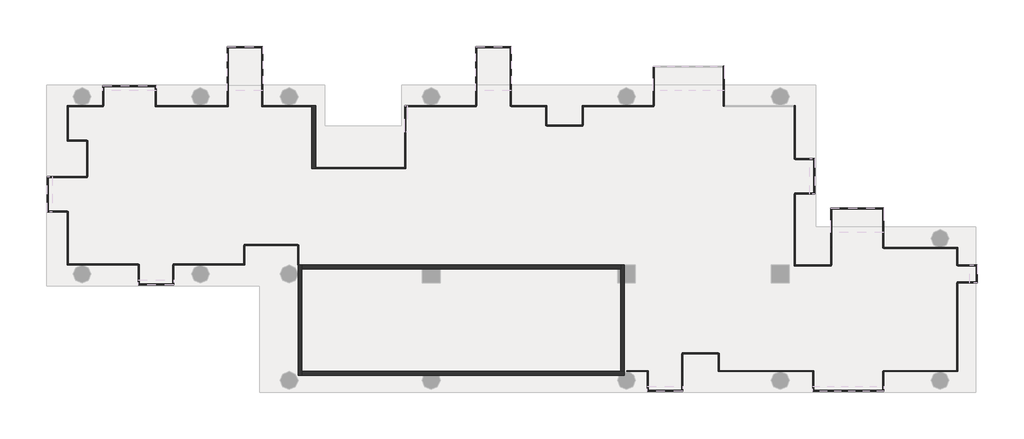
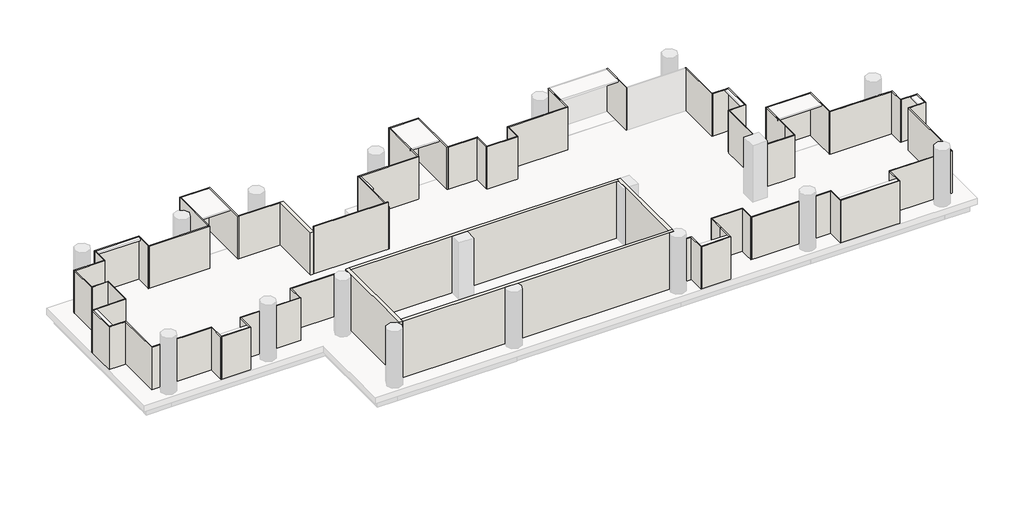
# One storey, part 1 of 2: 70 walls.
"""IFC4 building model written with IfcOpenShell, lengths in millimetres."""

from ifc_helpers import new_model, si_unit, frame, origin, place, context, project, spatial, polyline, outline, extrude, faceted_brep, element, save

model = new_model("IFC4")

# Units and contexts
model_context = context("Model", 3, world=origin())
ifc_project = project(units=[si_unit("LENGTHUNIT", "METRE", prefix="MILLI")], contexts=[model_context])

# Site, building, storey
site = spatial("IfcSite", under=ifc_project)
building = spatial("IfcBuilding", under=site)
storey = spatial("IfcBuildingStorey", under=building, Name="TW-L 03", Elevation=9999.9999686)

# Walls
placement = place(None, origin())
element("IfcWall", 1, ObjectType="AJN-ARC-CONCRETE WALL-20cm", at=placement, inside=storey, context=model_context, shape_type="Brep", body=[
    faceted_brep([(113050.0, 30750.0, 13599.9999686), (113050.0, 30750.0, 9999.9999686), (113050.0, 25150.0, 9999.9999686), (113050.0, 25150.0, 13599.9999686), (113250.0, 30750.0, 9999.9999686), (113250.0, 30750.0, 13599.9999686), (113250.0, 30550.0, 13599.9999686), (113250.0, 25350.0, 13599.9999686), (113250.0, 25150.0, 13599.9999686), (113250.0, 25150.0, 9999.9999686), (113250.0, 25350.0, 9999.9999686), (113250.0, 30550.0, 9999.9999686), (113097.1743518, 30750.0, 9999.9999686)], [[[0, 1, 2, 3]], [[4, 5, 6, 7, 8, 9, 10, 11]], [[2, 1, 12, 4, 11, 10, 9]], [[0, 3, 8, 7, 6, 5]], [[3, 2, 9, 8]], [[0, 5, 4, 12, 1]]]),
])
element("IfcWall", 2, ObjectType="AJN-ARC-CONCRETE WALL-20cm", at=placement, inside=storey, context=model_context, shape_type="Brep", body=[
    faceted_brep([(113250.0, 25150.0, 9999.9999686), (119425.8342613, 25150.0, 9999.9999686), (120174.1657387, 25150.0, 9999.9999686), (129325.8342613, 25150.0, 9999.9999686), (129600.0, 25150.0, 9999.9999686), (129600.0, 25150.0, 13599.9999686), (129325.8342613, 25150.0, 13599.9999686), (120174.1657387, 25150.0, 13599.9999686), (119425.8342613, 25150.0, 13599.9999686), (113250.0, 25150.0, 13599.9999686), (113250.0, 25350.0, 9999.9999686), (113250.0, 25350.0, 13599.9999686), (129400.0, 25350.0, 13599.9999686), (129600.0, 25350.0, 13599.9999686), (129600.0, 25350.0, 9999.9999686), (129400.0, 25350.0, 9999.9999686), (129600.0, 25338.7482194, 9999.9999686), (129600.0, 25338.7482194, 13599.9999686)], [[[0, 1, 2, 3, 4, 5, 6, 7, 8, 9]], [[10, 11, 12, 13, 14, 15]], [[4, 3, 2, 1, 0, 10, 15, 14, 16]], [[9, 8, 7, 6, 5, 17, 13, 12, 11]], [[5, 4, 16, 14, 13, 17]], [[0, 9, 11, 10]]]),
])
element("IfcWall", 3, ObjectType="AJN-ARC-CONCRETE WALL-20cm", at=placement, inside=storey, context=model_context, shape_type="Brep", body=[
    faceted_brep([(129600.0, 25350.0, 9999.9999686), (129600.0, 29850.0, 9999.9999686), (129600.0, 30750.0, 9999.9999686), (129600.0, 30750.0, 13599.9999686), (129600.0, 29850.0, 13599.9999686), (129600.0, 25350.0, 13599.9999686), (129400.0, 25350.0, 9999.9999686), (129400.0, 25350.0, 13599.9999686), (129400.0, 29850.0, 13599.9999686), (129400.0, 30550.0, 13599.9999686), (129400.0, 30750.0, 13599.9999686), (129400.0, 30750.0, 9999.9999686), (129400.0, 30550.0, 9999.9999686), (129400.0, 29850.0, 9999.9999686)], [[[0, 1, 2, 3, 4, 5]], [[6, 7, 8, 9, 10, 11, 12, 13]], [[2, 1, 0, 6, 13, 12, 11]], [[5, 4, 3, 10, 9, 8, 7]], [[3, 2, 11, 10]], [[0, 5, 7, 6]]]),
])
element("IfcWall", 4, ObjectType="AJN-ARC-CONCRETE WALL-20cm", at=placement, inside=storey, context=model_context, shape_type="Brep", body=[
    faceted_brep([(129400.0, 30750.0, 9999.9999686), (113250.0, 30750.0, 9999.9999686), (113250.0, 30750.0, 13599.9999686), (129400.0, 30750.0, 13599.9999686), (129400.0, 30550.0, 9999.9999686), (129400.0, 30550.0, 13599.9999686), (129250.0, 30550.0, 13599.9999686), (120250.0, 30550.0, 13599.9999686), (119350.0, 30550.0, 13599.9999686), (113250.0, 30550.0, 13599.9999686), (113250.0, 30550.0, 9999.9999686), (119350.0, 30550.0, 9999.9999686), (120250.0, 30550.0, 9999.9999686), (129250.0, 30550.0, 9999.9999686)], [[[0, 1, 2, 3]], [[4, 5, 6, 7, 8, 9, 10, 11, 12, 13]], [[1, 0, 4, 13, 12, 11, 10]], [[3, 2, 9, 8, 7, 6, 5]], [[0, 3, 5, 4]], [[1, 10, 9, 2]]]),
])
element("IfcWall", 5, ObjectType="AJN-ARC-CONCRETE WALL-20cm", at=placement, inside=storey, context=model_context, shape_type="Brep", body=[
    faceted_brep([(113950.0, 35650.0, 9999.9999686), (113950.0, 38850.001152, 9999.9999686), (113950.0, 38850.001152, 12699.9999686), (113950.0, 35650.0, 12699.9999686), (113750.0, 35650.0, 9999.9999686), (113750.0, 35650.0, 12699.9999686), (113750.0, 38800.001152, 12699.9999686), (113750.0, 38850.001152, 12699.9999686), (113750.0, 38850.001152, 9999.9999686), (113750.0, 38800.001152, 9999.9999686)], [[[0, 1, 2, 3]], [[4, 5, 6, 7, 8, 9]], [[1, 0, 4, 9, 8]], [[3, 2, 7, 6, 5]], [[2, 1, 8, 7]], [[0, 3, 5, 4]]]),
])
element("IfcWall", 6, ObjectType="AJN-ARC-GLASS-50mm", at=placement, inside=storey, context=model_context, shape_type="SweptSolid", body=[
    extrude(outline(polyline([(111250.0, 38850.001152), (113750.0, 38850.001152), (113750.0, 38800.001152), (111250.0, 38800.001152), (111250.0, 38850.001152)])), frame((0.0, 0.0, 9999.9999686), z_axis=(0.0, 0.0, 1.0), x_axis=(1.0, 0.0, 0.0)), (0.0, 0.0, 1.0), 2700.0),
])
element("IfcWall", 7, ObjectType="AJN-ARC-GLASS-50mm", at=placement, inside=storey, context=model_context, shape_type="Brep", body=[
    faceted_brep([(111250.0, 38800.001152, 9999.9999686), (111250.0, 38850.001152, 9999.9999686), (111250.0, 41850.0, 9999.9999686), (111250.0, 41850.0, 12699.9999686), (111250.0, 38850.001152, 12699.9999686), (111250.0, 38800.001152, 12699.9999686), (111200.0, 38800.001152, 9999.9999686), (111200.0, 38800.001152, 12699.9999686), (111200.0, 41800.0, 12699.9999686), (111200.0, 41850.0, 12699.9999686), (111200.0, 41850.0, 9999.9999686), (111200.0, 41800.0, 9999.9999686)], [[[0, 1, 2, 3, 4, 5]], [[6, 7, 8, 9, 10, 11]], [[2, 1, 0, 6, 11, 10]], [[5, 4, 3, 9, 8, 7]], [[3, 2, 10, 9]], [[0, 5, 7, 6]]]),
])
element("IfcWall", 8, ObjectType="AJN-ARC-GLASS-50mm", at=placement, inside=storey, context=model_context, shape_type="Brep", body=[
    faceted_brep([(111200.0, 41850.0, 9999.9999686), (109450.0, 41850.0, 9999.9999686), (109450.0, 41850.0, 12699.9999686), (111200.0, 41850.0, 12699.9999686), (111200.0, 41800.0, 9999.9999686), (111200.0, 41800.0, 12699.9999686), (109500.0, 41800.0, 12699.9999686), (109450.0, 41800.0, 12699.9999686), (109450.0, 41800.0, 9999.9999686), (109500.0, 41800.0, 9999.9999686)], [[[0, 1, 2, 3]], [[4, 5, 6, 7, 8, 9]], [[1, 0, 4, 9, 8]], [[3, 2, 7, 6, 5]], [[2, 1, 8, 7]], [[0, 3, 5, 4]]]),
])
element("IfcWall", 9, ObjectType="AJN-ARC-GLASS-50mm", at=placement, inside=storey, context=model_context, shape_type="SweptSolid", body=[
    extrude(outline(polyline([(109450.0, 38850.001152), (109450.0, 41800.0), (109500.0, 41800.0), (109500.0, 38850.00116), (109450.0, 38850.001152)])), frame((0.0, 0.0, 9999.9999686), z_axis=(0.0, 0.0, 1.0), x_axis=(1.0, 0.0, 0.0)), (0.0, 0.0, 1.0), 2700.0),
])
element("IfcWall", 10, ObjectType="AJN-ARC-GLASS-50mm", at=placement, inside=storey, context=model_context, shape_type="Brep", body=[
    faceted_brep([(109500.0, 38850.00116, 9999.9999686), (109450.0, 38850.001152, 9999.9999686), (105850.0, 38850.000576, 9999.9999686), (105850.0, 38850.000576, 12699.9999686), (109450.0, 38850.001152, 12699.9999686), (109500.0, 38850.00116, 12699.9999686), (109500.0, 38800.00116, 9999.9999686), (109500.0, 38800.00116, 12699.9999686), (105850.0, 38800.000576, 12699.9999686), (105850.0, 38800.000576, 9999.9999686)], [[[0, 1, 2, 3, 4, 5]], [[6, 7, 8, 9]], [[2, 1, 0, 6, 9]], [[5, 4, 3, 8, 7]], [[0, 5, 7, 6]], [[3, 2, 9, 8]]]),
])
element("IfcWall", 11, ObjectType="AJN-ARC-GLASS-50mm", at=placement, inside=storey, context=model_context, shape_type="Brep", body=[
    faceted_brep([(105850.0, 38800.000576, 9999.9999686), (105850.0, 38850.000576, 9999.9999686), (105850.0, 39850.0, 9999.9999686), (105850.0, 39850.0, 12699.9999686), (105850.0, 38850.000576, 12699.9999686), (105850.0, 38800.000576, 12699.9999686), (105800.0, 38800.000568, 9999.9999686), (105800.0, 38800.000568, 12699.9999686), (105800.0, 39800.0, 12699.9999686), (105800.0, 39850.0, 12699.9999686), (105800.0, 39850.0, 9999.9999686), (105800.0, 39800.0, 9999.9999686)], [[[0, 1, 2, 3, 4, 5]], [[6, 7, 8, 9, 10, 11]], [[2, 1, 0, 6, 11, 10]], [[5, 4, 3, 9, 8, 7]], [[3, 2, 10, 9]], [[0, 5, 7, 6]]]),
])
element("IfcWall", 12, ObjectType="AJN-ARC-GLASS-50mm", at=placement, inside=storey, context=model_context, shape_type="Brep", body=[
    faceted_brep([(105800.0, 39850.0, 9999.9999686), (103150.0, 39850.0, 9999.9999686), (103150.0, 39850.0, 12699.9999686), (105800.0, 39850.0, 12699.9999686), (105800.0, 39800.0, 9999.9999686), (105800.0, 39800.0, 12699.9999686), (103200.0, 39800.0, 12699.9999686), (103150.0, 39800.0, 12699.9999686), (103150.0, 39800.0, 9999.9999686), (103200.0, 39800.0, 9999.9999686)], [[[0, 1, 2, 3]], [[4, 5, 6, 7, 8, 9]], [[1, 0, 4, 9, 8]], [[3, 2, 7, 6, 5]], [[2, 1, 8, 7]], [[0, 3, 5, 4]]]),
])
element("IfcWall", 13, ObjectType="AJN-ARC-GLASS-50mm", at=placement, inside=storey, context=model_context, shape_type="SweptSolid", body=[
    extrude(outline(polyline([(103150.0, 38850.000576), (103150.0, 39800.0), (103200.0, 39800.0), (103200.0, 38850.000576), (103150.0, 38850.000576)])), frame((0.0, 0.0, 9999.9999686), z_axis=(0.0, 0.0, 1.0), x_axis=(1.0, 0.0, 0.0)), (0.0, 0.0, 1.0), 2700.0),
])
element("IfcWall", 14, ObjectType="AJN-ARC-GLASS-50mm", at=placement, inside=storey, context=model_context, shape_type="Brep", body=[
    faceted_brep([(103175.000008, 38850.000568, 9999.9999686), (101347.1743518, 38850.001152, 9999.9999686), (101347.1743518, 38850.001152, 12699.9999686), (103175.000008, 38850.000568, 12699.9999686), (103174.999992, 38800.000568, 9999.9999686), (103174.999992, 38800.000568, 12699.9999686), (101397.1743518, 38800.001136, 12699.9999686), (101347.1743518, 38800.001152, 12699.9999686), (101347.1743518, 38800.001152, 9999.9999686), (101397.1743518, 38800.001136, 9999.9999686)], [[[0, 1, 2, 3]], [[4, 5, 6, 7, 8, 9]], [[1, 0, 4, 9, 8]], [[3, 2, 7, 6, 5]], [[0, 3, 5, 4]], [[2, 1, 8, 7]]]),
])
element("IfcWall", 15, ObjectType="AJN-ARC-GLASS-50mm", at=placement, inside=storey, context=model_context, shape_type="Brep", body=[
    faceted_brep([(101347.1743518, 38800.001152, 9999.9999686), (101347.1743518, 37049.4054443, 9999.9999686), (101347.1743518, 37049.4054443, 12699.9999686), (101347.1743518, 38800.001152, 12699.9999686), (101397.1743518, 38800.001136, 9999.9999686), (101397.1743518, 38800.001136, 12699.9999686), (101397.1743518, 37099.4054443, 12699.9999686), (101397.1743518, 37049.4054443, 12699.9999686), (101397.1743518, 37049.4054443, 9999.9999686), (101397.1743518, 37099.4054443, 9999.9999686)], [[[0, 1, 2, 3]], [[4, 5, 6, 7, 8, 9]], [[1, 0, 4, 9, 8]], [[3, 2, 7, 6, 5]], [[2, 1, 8, 7]], [[0, 3, 5, 4]]]),
])
element("IfcWall", 16, ObjectType="AJN-ARC-GLASS-50mm", at=placement, inside=storey, context=model_context, shape_type="SweptSolid", body=[
    extrude(outline(polyline([(102348.1792673, 37049.4054443), (101397.1743518, 37049.4054443), (101397.1743518, 37099.4054443), (102348.1792673, 37099.4054443), (102348.1792673, 37049.4054443)])), frame((0.0, 0.0, 9999.9999686), z_axis=(0.0, 0.0, 1.0), x_axis=(1.0, 0.0, 0.0)), (0.0, 0.0, 1.0), 2700.0),
])
element("IfcWall", 17, ObjectType="AJN-ARC-GLASS-50mm", at=placement, inside=storey, context=model_context, shape_type="SweptSolid", body=[
    extrude(outline(polyline([(102348.1792673, 35249.4054443), (102348.1792673, 37074.4054443), (102398.1792673, 37074.4054443), (102398.1792673, 35249.4054443), (102348.1792673, 35249.4054443)])), frame((0.0, 0.0, 9999.9999686), z_axis=(0.0, 0.0, 1.0), x_axis=(1.0, 0.0, 0.0)), (0.0, 0.0, 1.0), 2700.0),
])
element("IfcWall", 18, ObjectType="AJN-ARC-GLASS-50mm", at=placement, inside=storey, context=model_context, shape_type="Brep", body=[
    faceted_brep([(102373.1792673, 35249.4054443, 9999.9999686), (100348.1792673, 35249.4054443, 9999.9999686), (100348.1792673, 35249.4054443, 12699.9999686), (102373.1792673, 35249.4054443, 12699.9999686), (102373.1792673, 35199.4054443, 9999.9999686), (102373.1792673, 35199.4054443, 12699.9999686), (100398.1792673, 35199.4054443, 12699.9999686), (100348.1792673, 35199.4054443, 12699.9999686), (100348.1792673, 35199.4054443, 9999.9999686), (100398.1792673, 35199.4054443, 9999.9999686)], [[[0, 1, 2, 3]], [[4, 5, 6, 7, 8, 9]], [[1, 0, 4, 9, 8]], [[3, 2, 7, 6, 5]], [[0, 3, 5, 4]], [[2, 1, 8, 7]]]),
])
element("IfcWall", 19, ObjectType="AJN-ARC-GLASS-50mm", at=placement, inside=storey, context=model_context, shape_type="Brep", body=[
    faceted_brep([(100348.1792673, 35199.4054443, 9999.9999686), (100348.1792673, 33449.4054443, 9999.9999686), (100348.1792673, 33449.4054443, 12699.9999686), (100348.1792673, 35199.4054443, 12699.9999686), (100398.1792673, 35199.4054443, 9999.9999686), (100398.1792673, 35199.4054443, 12699.9999686), (100398.1792673, 33499.4054443, 12699.9999686), (100398.1792673, 33449.4054443, 12699.9999686), (100398.1792673, 33449.4054443, 9999.9999686), (100398.1792673, 33499.4054443, 9999.9999686)], [[[0, 1, 2, 3]], [[4, 5, 6, 7, 8, 9]], [[1, 0, 4, 9, 8]], [[3, 2, 7, 6, 5]], [[2, 1, 8, 7]], [[0, 3, 5, 4]]]),
])
element("IfcWall", 20, ObjectType="AJN-ARC-GLASS-50mm", at=placement, inside=storey, context=model_context, shape_type="SweptSolid", body=[
    extrude(outline(polyline([(101347.1743518, 33449.4054443), (100398.1792673, 33449.4054443), (100398.1792673, 33499.4054443), (101347.1743518, 33499.4054443), (101347.1743518, 33449.4054443)])), frame((0.0, 0.0, 9999.9999686), z_axis=(0.0, 0.0, 1.0), x_axis=(1.0, 0.0, 0.0)), (0.0, 0.0, 1.0), 2700.0),
])
element("IfcWall", 21, ObjectType="AJN-ARC-GLASS-50mm", at=placement, inside=storey, context=model_context, shape_type="Brep", body=[
    faceted_brep([(101347.1743518, 33474.4054443, 9999.9999686), (101347.1743518, 30750.0, 9999.9999686), (101347.1743518, 30750.0, 12699.9999686), (101347.1743518, 33474.4054443, 12699.9999686), (101397.1743518, 33474.4054443, 9999.9999686), (101397.1743518, 33474.4054443, 12699.9999686), (101397.1743518, 30800.0, 12699.9999686), (101397.1743518, 30750.0, 12699.9999686), (101397.1743518, 30750.0, 9999.9999686), (101397.1743518, 30800.0, 9999.9999686)], [[[0, 1, 2, 3]], [[4, 5, 6, 7, 8, 9]], [[1, 0, 4, 9, 8]], [[3, 2, 7, 6, 5]], [[0, 3, 5, 4]], [[2, 1, 8, 7]]]),
])
element("IfcWall", 22, ObjectType="AJN-ARC-GLASS-50mm", at=placement, inside=storey, context=model_context, shape_type="SweptSolid", body=[
    extrude(outline(polyline([(104947.1743518, 30750.0), (101397.1743518, 30750.0), (101397.1743518, 30800.0), (104947.1743518, 30800.0), (104947.1743518, 30750.0)])), frame((0.0, 0.0, 9999.9999686), z_axis=(0.0, 0.0, 1.0), x_axis=(1.0, 0.0, 0.0)), (0.0, 0.0, 1.0), 2700.0),
])
element("IfcWall", 23, ObjectType="AJN-ARC-GLASS-50mm", at=placement, inside=storey, context=model_context, shape_type="Brep", body=[
    faceted_brep([(104947.1743518, 30775.0, 9999.9999686), (104947.1743518, 29750.0, 9999.9999686), (104947.1743518, 29750.0, 12699.9999686), (104947.1743518, 30775.0, 12699.9999686), (104997.1743518, 30775.0, 9999.9999686), (104997.1743518, 30775.0, 12699.9999686), (104997.1743518, 29800.0, 12699.9999686), (104997.1743518, 29750.0, 12699.9999686), (104997.1743518, 29750.0, 9999.9999686), (104997.1743518, 29800.0, 9999.9999686)], [[[0, 1, 2, 3]], [[4, 5, 6, 7, 8, 9]], [[1, 0, 4, 9, 8]], [[3, 2, 7, 6, 5]], [[0, 3, 5, 4]], [[2, 1, 8, 7]]]),
])
element("IfcWall", 24, ObjectType="AJN-ARC-GLASS-50mm", at=placement, inside=storey, context=model_context, shape_type="Brep", body=[
    faceted_brep([(104997.1743518, 29750.0, 9999.9999686), (106747.1743518, 29750.0, 9999.9999686), (106747.1743518, 29750.0, 12699.9999686), (104997.1743518, 29750.0, 12699.9999686), (104997.1743518, 29800.0, 9999.9999686), (104997.1743518, 29800.0, 12699.9999686), (106697.1743518, 29800.0, 12699.9999686), (106747.1743518, 29800.0, 12699.9999686), (106747.1743518, 29800.0, 9999.9999686), (106697.1743518, 29800.0, 9999.9999686)], [[[0, 1, 2, 3]], [[4, 5, 6, 7, 8, 9]], [[1, 0, 4, 9, 8]], [[3, 2, 7, 6, 5]], [[2, 1, 8, 7]], [[0, 3, 5, 4]]]),
])
element("IfcWall", 25, ObjectType="AJN-ARC-GLASS-50mm", at=placement, inside=storey, context=model_context, shape_type="SweptSolid", body=[
    extrude(outline(polyline([(106747.1743518, 30750.0), (106747.1743518, 29800.0), (106697.1743518, 29800.0), (106697.1743518, 30750.0), (106747.1743518, 30750.0)])), frame((0.0, 0.0, 9999.9999686), z_axis=(0.0, 0.0, 1.0), x_axis=(1.0, 0.0, 0.0)), (0.0, 0.0, 1.0), 2700.0),
])
element("IfcWall", 26, ObjectType="AJN-ARC-GLASS-50mm", at=placement, inside=storey, context=model_context, shape_type="Brep", body=[
    faceted_brep([(106722.1743518, 30750.0, 9999.9999686), (110347.1743518, 30750.0, 9999.9999686), (110347.1743518, 30750.0, 12699.9999686), (106722.1743518, 30750.0, 12699.9999686), (106722.1743518, 30800.0, 9999.9999686), (106722.1743518, 30800.0, 12699.9999686), (110297.1743518, 30800.0, 12699.9999686), (110347.1743518, 30800.0, 12699.9999686), (110347.1743518, 30800.0, 9999.9999686), (110297.1743518, 30800.0, 9999.9999686)], [[[0, 1, 2, 3]], [[4, 5, 6, 7, 8, 9]], [[1, 0, 4, 9, 8]], [[3, 2, 7, 6, 5]], [[0, 3, 5, 4]], [[2, 1, 8, 7]]]),
])
element("IfcWall", 27, ObjectType="AJN-ARC-GLASS-50mm", at=placement, inside=storey, context=model_context, shape_type="SweptSolid", body=[
    extrude(outline(polyline([(110347.1743518, 31750.0), (110347.1743518, 30800.0), (110297.1743518, 30800.0), (110297.1743518, 31750.0), (110347.1743518, 31750.0)])), frame((0.0, 0.0, 9999.9999686), z_axis=(0.0, 0.0, 1.0), x_axis=(1.0, 0.0, 0.0)), (0.0, 0.0, 1.0), 2700.0),
])
element("IfcWall", 28, ObjectType="AJN-ARC-GLASS-50mm", at=placement, inside=storey, context=model_context, shape_type="SweptSolid", body=[
    extrude(outline(polyline([(113047.1743518, 31750.0), (110322.1743518, 31750.0), (110322.1743518, 31800.0), (113047.1743518, 31800.0), (113047.1743518, 31750.0)])), frame((0.0, 0.0, 9999.9999686), z_axis=(0.0, 0.0, 1.0), x_axis=(1.0, 0.0, 0.0)), (0.0, 0.0, 1.0), 2700.0),
])
element("IfcWall", 29, ObjectType="AJN-ARC-GLASS-50mm", at=placement, inside=storey, context=model_context, shape_type="Brep", body=[
    faceted_brep([(113047.1743518, 31775.0, 9999.9999686), (113047.1743518, 30750.0, 9999.9999686), (113047.1743518, 30750.0, 12699.9999686), (113047.1743518, 31775.0, 12699.9999686), (113097.1743518, 31775.0, 9999.9999686), (113097.1743518, 31775.0, 12699.9999686), (113097.1743518, 30750.0, 12699.9999686), (113097.1743518, 30750.0, 9999.9999686), (113050.0, 30750.0, 9999.9999686)], [[[0, 1, 2, 3]], [[4, 5, 6, 7]], [[1, 0, 4, 7, 8]], [[3, 2, 6, 5]], [[0, 3, 5, 4]], [[2, 1, 8, 7, 6]]]),
])
element("IfcWall", 30, ObjectType="AJN-ARC-GLASS-50mm", at=placement, inside=storey, context=model_context, shape_type="Brep", body=[
    faceted_brep([(138250.0, 30700.0, 9999.9999686), (138250.0, 30750.0, 9999.9999686), (138250.0, 34350.0, 9999.9999686), (138250.0, 34350.0, 12699.9999686), (138250.0, 30750.0, 12699.9999686), (138250.0, 30700.0, 12699.9999686), (138200.0, 30700.0, 9999.9999686), (138200.0, 30700.0, 12699.9999686), (138200.0, 34350.0, 12699.9999686), (138200.0, 34350.0, 9999.9999686)], [[[0, 1, 2, 3, 4, 5]], [[6, 7, 8, 9]], [[2, 1, 0, 6, 9]], [[3, 2, 9, 8]], [[5, 4, 3, 8, 7]], [[0, 5, 7, 6]]]),
])
element("IfcWall", 31, ObjectType="AJN-ARC-GLASS-50mm", at=placement, inside=storey, context=model_context, shape_type="Brep", body=[
    faceted_brep([(138225.0, 34350.0, 9999.9999686), (139250.0, 34350.0, 9999.9999686), (139250.0, 34350.0, 12699.9999686), (138225.0, 34350.0, 12699.9999686), (138225.0, 34400.0, 9999.9999686), (138225.0, 34400.0, 12699.9999686), (139200.0, 34400.0, 12699.9999686), (139250.0, 34400.0, 12699.9999686), (139250.0, 34400.0, 9999.9999686), (139200.0, 34400.0, 9999.9999686)], [[[0, 1, 2, 3]], [[4, 5, 6, 7, 8, 9]], [[1, 0, 4, 9, 8]], [[3, 2, 7, 6, 5]], [[0, 3, 5, 4]], [[2, 1, 8, 7]]]),
])
element("IfcWall", 32, ObjectType="AJN-ARC-GLASS-50mm", at=placement, inside=storey, context=model_context, shape_type="Brep", body=[
    faceted_brep([(139250.0, 34400.0, 9999.9999686), (139250.0, 36150.0, 9999.9999686), (139250.0, 36150.0, 12699.9999686), (139250.0, 34400.0, 12699.9999686), (139200.0, 34400.0, 9999.9999686), (139200.0, 34400.0, 12699.9999686), (139200.0, 36100.0, 12699.9999686), (139200.0, 36150.0, 12699.9999686), (139200.0, 36150.0, 9999.9999686), (139200.0, 36100.0, 9999.9999686)], [[[0, 1, 2, 3]], [[4, 5, 6, 7, 8, 9]], [[1, 0, 4, 9, 8]], [[3, 2, 7, 6, 5]], [[2, 1, 8, 7]], [[0, 3, 5, 4]]]),
])
element("IfcWall", 33, ObjectType="AJN-ARC-GLASS-50mm", at=placement, inside=storey, context=model_context, shape_type="SweptSolid", body=[
    extrude(outline(polyline([(138250.0, 36150.0), (139200.0, 36150.0), (139200.0, 36100.0), (138250.0, 36100.0), (138250.0, 36150.0)])), frame((0.0, 0.0, 9999.9999686), z_axis=(0.0, 0.0, 1.0), x_axis=(1.0, 0.0, 0.0)), (0.0, 0.0, 1.0), 2700.0),
])
element("IfcWall", 34, ObjectType="AJN-ARC-GLASS-50mm", at=placement, inside=storey, context=model_context, shape_type="Brep", body=[
    faceted_brep([(138250.0, 36125.0, 9999.9999686), (138250.0, 38850.0, 9999.9999686), (138250.0, 38850.0, 12699.9999686), (138250.0, 36125.0, 12699.9999686), (138200.0, 36125.0, 9999.9999686), (138200.0, 36125.0, 12699.9999686), (138200.0, 38800.0, 12699.9999686), (138200.0, 38850.0, 12699.9999686), (138200.0, 38850.0, 9999.9999686), (138200.0, 38800.0, 9999.9999686)], [[[0, 1, 2, 3]], [[4, 5, 6, 7, 8, 9]], [[1, 0, 4, 9, 8]], [[3, 2, 7, 6, 5]], [[0, 3, 5, 4]], [[2, 1, 8, 7]]]),
])
element("IfcWall", 35, ObjectType="AJN-ARC-GLASS-50mm", at=placement, inside=storey, context=model_context, shape_type="Brep", body=[
    faceted_brep([(134658.039324, 38825.0, 9999.9999686), (134658.039324, 40850.0, 9999.9999686), (134658.039324, 40850.0, 12699.9999686), (134658.039324, 38825.0, 12699.9999686), (134608.039324, 38825.0, 9999.9999686), (134608.039324, 38825.0, 12699.9999686), (134608.039324, 40800.0, 12699.9999686), (134608.039324, 40850.0, 12699.9999686), (134608.039324, 40850.0, 9999.9999686), (134608.039324, 40800.0, 9999.9999686)], [[[0, 1, 2, 3]], [[4, 5, 6, 7, 8, 9]], [[1, 0, 4, 9, 8]], [[3, 2, 7, 6, 5]], [[0, 3, 5, 4]], [[2, 1, 8, 7]]]),
])
element("IfcWall", 36, ObjectType="AJN-ARC-GLASS-50mm", at=placement, inside=storey, context=model_context, shape_type="SweptSolid", body=[
    extrude(outline(polyline([(131058.039324, 38850.0), (131058.039324, 40800.0), (131108.039324, 40800.0), (131108.039324, 38850.0), (131058.039324, 38850.0)])), frame((0.0, 0.0, 9999.9999686), z_axis=(0.0, 0.0, 1.0), x_axis=(1.0, 0.0, 0.0)), (0.0, 0.0, 1.0), 2700.0),
])
element("IfcWall", 37, ObjectType="AJN-ARC-GLASS-50mm", at=placement, inside=storey, context=model_context, shape_type="Brep", body=[
    faceted_brep([(131083.039324, 38850.0, 9999.9999686), (127458.039324, 38850.0, 9999.9999686), (127458.039324, 38850.0, 12699.9999686), (131083.039324, 38850.0, 12699.9999686), (131083.039324, 38800.0, 9999.9999686), (131083.039324, 38800.0, 12699.9999686), (127508.039324, 38800.0, 12699.9999686), (127458.039324, 38800.0, 12699.9999686), (127458.039324, 38800.0, 9999.9999686), (127508.039324, 38800.0, 9999.9999686)], [[[0, 1, 2, 3]], [[4, 5, 6, 7, 8, 9]], [[1, 0, 4, 9, 8]], [[3, 2, 7, 6, 5]], [[0, 3, 5, 4]], [[2, 1, 8, 7]]]),
])
element("IfcWall", 38, ObjectType="AJN-ARC-GLASS-50mm", at=placement, inside=storey, context=model_context, shape_type="SweptSolid", body=[
    extrude(outline(polyline([(127458.039324, 37850.0), (127458.039324, 38800.0), (127508.039324, 38800.0), (127508.039324, 37850.0), (127458.039324, 37850.0)])), frame((0.0, 0.0, 9999.9999686), z_axis=(0.0, 0.0, 1.0), x_axis=(1.0, 0.0, 0.0)), (0.0, 0.0, 1.0), 2700.0),
])
element("IfcWall", 39, ObjectType="AJN-ARC-GLASS-50mm", at=placement, inside=storey, context=model_context, shape_type="SweptSolid", body=[
    extrude(outline(polyline([(125658.039324, 37850.0), (127483.039324, 37850.0), (127483.039324, 37800.0), (125658.039324, 37800.0), (125658.039324, 37850.0)])), frame((0.0, 0.0, 9999.9999686), z_axis=(0.0, 0.0, 1.0), x_axis=(1.0, 0.0, 0.0)), (0.0, 0.0, 1.0), 2700.0),
])
element("IfcWall", 40, ObjectType="AJN-ARC-GLASS-50mm", at=placement, inside=storey, context=model_context, shape_type="Brep", body=[
    faceted_brep([(125657.9889773, 37824.9497543, 9999.9999686), (125660.049155, 38850.0, 9999.9999686), (125660.049155, 38850.0, 12699.9999686), (125657.9889773, 37824.9497543, 12699.9999686), (125607.9890782, 37825.0502457, 9999.9999686), (125607.9890782, 37825.0502457, 12699.9999686), (125609.9485625, 38800.0, 12699.9999686), (125610.049054, 38850.0, 12699.9999686), (125610.049054, 38850.0, 9999.9999686), (125609.9485625, 38800.0, 9999.9999686)], [[[0, 1, 2, 3]], [[4, 5, 6, 7, 8, 9]], [[1, 0, 4, 9, 8]], [[3, 2, 7, 6, 5]], [[0, 3, 5, 4]], [[2, 1, 8, 7]]]),
])
element("IfcWall", 41, ObjectType="AJN-ARC-GLASS-50mm", at=placement, inside=storey, context=model_context, shape_type="SweptSolid", body=[
    extrude(outline(polyline([(123862.058986, 38850.0), (125610.049054, 38850.0), (125609.9485625, 38800.0), (123862.058986, 38800.0), (123862.058986, 38850.0)])), frame((0.0, 0.0, 9999.9999686), z_axis=(0.0, 0.0, 1.0), x_axis=(1.0, 0.0, 0.0)), (0.0, 0.0, 1.0), 2700.0),
])
element("IfcWall", 42, ObjectType="AJN-ARC-GLASS-50mm", at=placement, inside=storey, context=model_context, shape_type="Brep", body=[
    faceted_brep([(123862.058986, 38825.0, 9999.9999686), (123862.058986, 41850.0, 9999.9999686), (123862.058986, 41850.0, 12699.9999686), (123862.058986, 38825.0, 12699.9999686), (123812.058986, 38825.0, 9999.9999686), (123812.058986, 38825.0, 12699.9999686), (123812.058986, 41800.0, 12699.9999686), (123812.058986, 41850.0, 12699.9999686), (123812.058986, 41850.0, 9999.9999686), (123812.058986, 41800.0, 9999.9999686)], [[[0, 1, 2, 3]], [[4, 5, 6, 7, 8, 9]], [[1, 0, 4, 9, 8]], [[3, 2, 7, 6, 5]], [[0, 3, 5, 4]], [[2, 1, 8, 7]]]),
])
element("IfcWall", 43, ObjectType="AJN-ARC-GLASS-50mm", at=placement, inside=storey, context=model_context, shape_type="Brep", body=[
    faceted_brep([(123812.058986, 41850.0, 9999.9999686), (122062.058986, 41850.0, 9999.9999686), (122062.058986, 41850.0, 12699.9999686), (123812.058986, 41850.0, 12699.9999686), (123812.058986, 41800.0, 9999.9999686), (123812.058986, 41800.0, 12699.9999686), (122112.058986, 41800.0, 12699.9999686), (122062.058986, 41800.0, 12699.9999686), (122062.058986, 41800.0, 9999.9999686), (122112.058986, 41800.0, 9999.9999686)], [[[0, 1, 2, 3]], [[4, 5, 6, 7, 8, 9]], [[1, 0, 4, 9, 8]], [[3, 2, 7, 6, 5]], [[2, 1, 8, 7]], [[0, 3, 5, 4]]]),
])
element("IfcWall", 44, ObjectType="AJN-ARC-GLASS-50mm", at=placement, inside=storey, context=model_context, shape_type="SweptSolid", body=[
    extrude(outline(polyline([(122062.058986, 38850.0), (122062.058986, 41800.0), (122112.058986, 41800.0), (122112.058986, 38850.0), (122062.058986, 38850.0)])), frame((0.0, 0.0, 9999.9999686), z_axis=(0.0, 0.0, 1.0), x_axis=(1.0, 0.0, 0.0)), (0.0, 0.0, 1.0), 2700.0),
])
element("IfcWall", 45, ObjectType="AJN-ARC-GLASS-50mm", at=placement, inside=storey, context=model_context, shape_type="Brep", body=[
    faceted_brep([(122087.058986, 38850.0, 9999.9999686), (118450.0, 38850.0, 9999.9999686), (118450.0, 38850.0, 12699.9999686), (122087.058986, 38850.0, 12699.9999686), (122087.058986, 38800.0, 9999.9999686), (122087.058986, 38800.0, 12699.9999686), (118500.0, 38800.0, 12699.9999686), (118450.0, 38800.0, 12699.9999686), (118450.0, 38800.0, 9999.9999686), (118500.0, 38800.0, 9999.9999686)], [[[0, 1, 2, 3]], [[4, 5, 6, 7, 8, 9]], [[1, 0, 4, 9, 8]], [[3, 2, 7, 6, 5]], [[0, 3, 5, 4]], [[2, 1, 8, 7]]]),
])
element("IfcWall", 46, ObjectType="AJN-ARC-GLASS-50mm", at=placement, inside=storey, context=model_context, shape_type="SweptSolid", body=[
    extrude(outline(polyline([(118450.0, 35650.0), (118450.0, 38800.0), (118500.0, 38800.0), (118500.0, 35650.0), (118450.0, 35650.0)])), frame((0.0, 0.0, 9999.9999686), z_axis=(0.0, 0.0, 1.0), x_axis=(1.0, 0.0, 0.0)), (0.0, 0.0, 1.0), 2700.0),
])
element("IfcWall", 47, ObjectType="AJN-ARC-GLASS-50mm", at=placement, inside=storey, context=model_context, shape_type="SweptSolid", body=[
    extrude(outline(polyline([(130750.3745887, 25350.0), (129714.068817, 25350.0), (129714.068817, 25400.0), (130750.3745887, 25400.0), (130750.3745887, 25350.0)])), frame((0.0, 0.0, 9999.9999686), z_axis=(0.0, 0.0, 1.0), x_axis=(1.0, 0.0, 0.0)), (0.0, 0.0, 1.0), 2700.0),
])
element("IfcWall", 48, ObjectType="AJN-ARC-GLASS-50mm", at=placement, inside=storey, context=model_context, shape_type="Brep", body=[
    faceted_brep([(130750.3745887, 25375.0, 9999.9999686), (130750.3745887, 24350.0, 9999.9999686), (130750.3745887, 24350.0, 12699.9999686), (130750.3745887, 25375.0, 12699.9999686), (130800.3745887, 25375.0, 9999.9999686), (130800.3745887, 25375.0, 12699.9999686), (130800.3745887, 24400.0, 12699.9999686), (130800.3745887, 24350.0, 12699.9999686), (130800.3745887, 24350.0, 9999.9999686), (130800.3745887, 24400.0, 9999.9999686)], [[[0, 1, 2, 3]], [[4, 5, 6, 7, 8, 9]], [[1, 0, 4, 9, 8]], [[3, 2, 7, 6, 5]], [[0, 3, 5, 4]], [[2, 1, 8, 7]]]),
])
element("IfcWall", 49, ObjectType="AJN-ARC-GLASS-50mm", at=placement, inside=storey, context=model_context, shape_type="Brep", body=[
    faceted_brep([(130800.3745887, 24350.0, 9999.9999686), (132550.3745887, 24350.0, 9999.9999686), (132550.3745887, 24350.0, 12699.9999686), (130800.3745887, 24350.0, 12699.9999686), (130800.3745887, 24400.0, 9999.9999686), (130800.3745887, 24400.0, 12699.9999686), (132500.3745887, 24400.0, 12699.9999686), (132550.3745887, 24400.0, 12699.9999686), (132550.3745887, 24400.0, 9999.9999686), (132500.3745887, 24400.0, 9999.9999686)], [[[0, 1, 2, 3]], [[4, 5, 6, 7, 8, 9]], [[1, 0, 4, 9, 8]], [[3, 2, 7, 6, 5]], [[2, 1, 8, 7]], [[0, 3, 5, 4]]]),
])
element("IfcWall", 50, ObjectType="AJN-ARC-GLASS-50mm", at=placement, inside=storey, context=model_context, shape_type="SweptSolid", body=[
    extrude(outline(polyline([(132550.3745887, 25350.0), (132550.3745887, 24400.0), (132500.3745887, 24400.0), (132500.3745887, 25350.0), (132550.3745887, 25350.0)])), frame((0.0, 0.0, 9999.9999686), z_axis=(0.0, 0.0, 1.0), x_axis=(1.0, 0.0, 0.0)), (0.0, 0.0, 1.0), 2700.0),
])
element("IfcWall", 51, ObjectType="AJN-ARC-GLASS-50mm", at=placement, inside=storey, context=model_context, shape_type="SweptSolid", body=[
    extrude(outline(polyline([(132550.3745887, 26250.0), (132550.3745887, 25350.0), (132500.3745887, 25350.0), (132500.3745887, 26250.0), (132550.3745887, 26250.0)])), frame((0.0, 0.0, 9999.9999686), z_axis=(0.0, 0.0, 1.0), x_axis=(1.0, 0.0, 0.0)), (0.0, 0.0, 1.0), 2700.0),
])
element("IfcWall", 52, ObjectType="AJN-ARC-GLASS-50mm", at=placement, inside=storey, context=model_context, shape_type="SweptSolid", body=[
    extrude(outline(polyline([(134350.3745887, 26250.0), (132525.3745887, 26250.0), (132525.3745887, 26300.0), (134350.3745887, 26300.0), (134350.3745887, 26250.0)])), frame((0.0, 0.0, 9999.9999686), z_axis=(0.0, 0.0, 1.0), x_axis=(1.0, 0.0, 0.0)), (0.0, 0.0, 1.0), 2700.0),
])
element("IfcWall", 53, ObjectType="AJN-ARC-GLASS-50mm", at=placement, inside=storey, context=model_context, shape_type="Brep", body=[
    faceted_brep([(134350.3745887, 26275.0, 9999.9999686), (134350.3745887, 25350.0, 9999.9999686), (134350.3745887, 25350.0, 12699.9999686), (134350.3745887, 26275.0, 12699.9999686), (134400.3745887, 26275.0, 9999.9999686), (134400.3745887, 26275.0, 12699.9999686), (134400.3745887, 25400.0, 12699.9999686), (134400.3745887, 25350.0, 12699.9999686), (134400.3745887, 25350.0, 9999.9999686), (134400.3745887, 25400.0, 9999.9999686)], [[[0, 1, 2, 3]], [[4, 5, 6, 7, 8, 9]], [[1, 0, 4, 9, 8]], [[3, 2, 7, 6, 5]], [[0, 3, 5, 4]], [[2, 1, 8, 7]]]),
])
element("IfcWall", 54, ObjectType="AJN-ARC-GLASS-50mm", at=placement, inside=storey, context=model_context, shape_type="SweptSolid", body=[
    extrude(outline(polyline([(139150.0957207, 25350.0), (134400.3745887, 25350.0), (134400.3745887, 25400.0), (139150.0957207, 25400.0), (139150.0957207, 25350.0)])), frame((0.0, 0.0, 9999.9999686), z_axis=(0.0, 0.0, 1.0), x_axis=(1.0, 0.0, 0.0)), (0.0, 0.0, 1.0), 2700.0),
])
element("IfcWall", 55, ObjectType="AJN-ARC-GLASS-50mm", at=placement, inside=storey, context=model_context, shape_type="Brep", body=[
    faceted_brep([(139150.0957207, 25375.0, 9999.9999686), (139150.0957207, 24350.0, 9999.9999686), (139150.0957207, 24350.0, 12699.9999686), (139150.0957207, 25375.0, 12699.9999686), (139200.0957207, 25375.0, 9999.9999686), (139200.0957207, 25375.0, 12699.9999686), (139200.0957207, 24400.0, 12699.9999686), (139200.0957207, 24350.0, 12699.9999686), (139200.0957207, 24350.0, 9999.9999686), (139200.0957207, 24400.0, 9999.9999686)], [[[0, 1, 2, 3]], [[4, 5, 6, 7, 8, 9]], [[1, 0, 4, 9, 8]], [[3, 2, 7, 6, 5]], [[0, 3, 5, 4]], [[2, 1, 8, 7]]]),
])
element("IfcWall", 56, ObjectType="AJN-ARC-GLASS-50mm", at=placement, inside=storey, context=model_context, shape_type="Brep", body=[
    faceted_brep([(139200.0957207, 24350.0, 9999.9999686), (142750.0957207, 24350.0, 9999.9999686), (142750.0957207, 24350.0, 12699.9999686), (139200.0957207, 24350.0, 12699.9999686), (139200.0957207, 24400.0, 9999.9999686), (139200.0957207, 24400.0, 12699.9999686), (142700.0957207, 24400.0, 12699.9999686), (142750.0957207, 24400.0, 12699.9999686), (142750.0957207, 24400.0, 9999.9999686), (142700.0957207, 24400.0, 9999.9999686)], [[[0, 1, 2, 3]], [[4, 5, 6, 7, 8, 9]], [[1, 0, 4, 9, 8]], [[3, 2, 7, 6, 5]], [[2, 1, 8, 7]], [[0, 3, 5, 4]]]),
])
element("IfcWall", 57, ObjectType="AJN-ARC-GLASS-50mm", at=placement, inside=storey, context=model_context, shape_type="SweptSolid", body=[
    extrude(outline(polyline([(142750.0957207, 25350.0), (142750.0957207, 24400.0), (142700.0957207, 24400.0), (142700.0957207, 25350.0), (142750.0957207, 25350.0)])), frame((0.0, 0.0, 9999.9999686), z_axis=(0.0, 0.0, 1.0), x_axis=(1.0, 0.0, 0.0)), (0.0, 0.0, 1.0), 2700.0),
])
element("IfcWall", 58, ObjectType="AJN-ARC-GLASS-50mm", at=placement, inside=storey, context=model_context, shape_type="Brep", body=[
    faceted_brep([(142725.0957207, 25350.0, 9999.9999686), (146497.681474, 25350.0, 9999.9999686), (146497.681474, 25350.0, 12699.9999686), (142725.0957207, 25350.0, 12699.9999686), (142725.0957207, 25400.0, 9999.9999686), (142725.0957207, 25400.0, 12699.9999686), (146447.681474, 25400.0, 12699.9999686), (146497.681474, 25400.0, 12699.9999686), (146497.681474, 25400.0, 9999.9999686), (146447.681474, 25400.0, 9999.9999686)], [[[0, 1, 2, 3]], [[4, 5, 6, 7, 8, 9]], [[1, 0, 4, 9, 8]], [[3, 2, 7, 6, 5]], [[0, 3, 5, 4]], [[2, 1, 8, 7]]]),
])
element("IfcWall", 59, ObjectType="AJN-ARC-GLASS-50mm", at=placement, inside=storey, context=model_context, shape_type="SweptSolid", body=[
    extrude(outline(polyline([(146497.681474, 29851.8314633), (146497.681474, 25400.0), (146447.681474, 25400.0), (146447.681474, 29851.8314633), (146497.681474, 29851.8314633)])), frame((0.0, 0.0, 9999.9999686), z_axis=(0.0, 0.0, 1.0), x_axis=(1.0, 0.0, 0.0)), (0.0, 0.0, 1.0), 2700.0),
])
element("IfcWall", 60, ObjectType="AJN-ARC-GLASS-50mm", at=placement, inside=storey, context=model_context, shape_type="Brep", body=[
    faceted_brep([(146472.681474, 29851.8314633, 9999.9999686), (147497.681474, 29851.8314633, 9999.9999686), (147497.681474, 29851.8314633, 12699.9999686), (146472.681474, 29851.8314633, 12699.9999686), (146472.681474, 29901.8314633, 9999.9999686), (146472.681474, 29901.8314633, 12699.9999686), (147447.681474, 29901.8314633, 12699.9999686), (147497.681474, 29901.8314633, 12699.9999686), (147497.681474, 29901.8314633, 9999.9999686), (147447.681474, 29901.8314633, 9999.9999686)], [[[0, 1, 2, 3]], [[4, 5, 6, 7, 8, 9]], [[1, 0, 4, 9, 8]], [[3, 2, 7, 6, 5]], [[0, 3, 5, 4]], [[2, 1, 8, 7]]]),
])
element("IfcWall", 61, ObjectType="AJN-ARC-GLASS-50mm", at=placement, inside=storey, context=model_context, shape_type="Brep", body=[
    faceted_brep([(147497.681474, 29901.8314633, 9999.9999686), (147497.681474, 30751.8314633, 9999.9999686), (147497.681474, 30751.8314633, 12699.9999686), (147497.681474, 29901.8314633, 12699.9999686), (147447.681474, 29901.8314633, 9999.9999686), (147447.681474, 29901.8314633, 12699.9999686), (147447.681474, 30701.8314633, 12699.9999686), (147447.681474, 30751.8314633, 12699.9999686), (147447.681474, 30751.8314633, 9999.9999686), (147447.681474, 30701.8314633, 9999.9999686)], [[[0, 1, 2, 3]], [[4, 5, 6, 7, 8, 9]], [[1, 0, 4, 9, 8]], [[3, 2, 7, 6, 5]], [[2, 1, 8, 7]], [[0, 3, 5, 4]]]),
])
element("IfcWall", 62, ObjectType="AJN-ARC-GLASS-50mm", at=placement, inside=storey, context=model_context, shape_type="SweptSolid", body=[
    extrude(outline(polyline([(146497.681474, 30751.8314633), (147447.681474, 30751.8314633), (147447.681474, 30701.8314633), (146497.681474, 30701.8314633), (146497.681474, 30751.8314633)])), frame((0.0, 0.0, 9999.9999686), z_axis=(0.0, 0.0, 1.0), x_axis=(1.0, 0.0, 0.0)), (0.0, 0.0, 1.0), 2700.0),
])
element("IfcWall", 63, ObjectType="AJN-ARC-GLASS-50mm", at=placement, inside=storey, context=model_context, shape_type="Brep", body=[
    faceted_brep([(146497.681474, 30726.8314633, 9999.9999686), (146497.681474, 31651.6593424, 9999.9999686), (146497.681474, 31651.6593424, 12699.9999686), (146497.681474, 30726.8314633, 12699.9999686), (146447.681474, 30726.8314633, 9999.9999686), (146447.681474, 30726.8314633, 12699.9999686), (146447.681474, 31601.6593424, 12699.9999686), (146447.681474, 31651.6593424, 12699.9999686), (146447.681474, 31651.6593424, 9999.9999686), (146447.681474, 31601.6593424, 9999.9999686)], [[[0, 1, 2, 3]], [[4, 5, 6, 7, 8, 9]], [[1, 0, 4, 9, 8]], [[3, 2, 7, 6, 5]], [[0, 3, 5, 4]], [[2, 1, 8, 7]]]),
])
element("IfcWall", 64, ObjectType="AJN-ARC-GLASS-50mm", at=placement, inside=storey, context=model_context, shape_type="Brep", body=[
    faceted_brep([(146447.681474, 31651.6593424, 9999.9999686), (145638.6089983, 31651.6593424, 9999.9999686), (145561.3910017, 31651.6593424, 9999.9999686), (142750.0, 31651.6593424, 9999.9999686), (142750.0, 31651.6593424, 12699.9999686), (145561.3910017, 31651.6593424, 12699.9999686), (145638.6089983, 31651.6593424, 12699.9999686), (146447.681474, 31651.6593424, 12699.9999686), (146447.681474, 31601.6593424, 9999.9999686), (146447.681474, 31601.6593424, 12699.9999686), (142750.0, 31601.6593424, 12699.9999686), (142750.0, 31601.6593424, 9999.9999686)], [[[0, 1, 2, 3, 4, 5, 6, 7]], [[8, 9, 10, 11]], [[3, 2, 1, 0, 8, 11]], [[4, 3, 11, 10]], [[7, 6, 5, 4, 10, 9]], [[0, 7, 9, 8]]]),
])
element("IfcWall", 65, ObjectType="AJN-ARC-GLASS-50mm", at=placement, inside=storey, context=model_context, shape_type="Brep", body=[
    faceted_brep([(142750.0, 31626.6593424, 9999.9999686), (142750.0, 33651.6593424, 9999.9999686), (142750.0, 33651.6593424, 12699.9999686), (142750.0, 31626.6593424, 12699.9999686), (142700.0, 31626.6593424, 9999.9999686), (142700.0, 31626.6593424, 12699.9999686), (142700.0, 33601.6593424, 12699.9999686), (142700.0, 33651.6593424, 12699.9999686), (142700.0, 33651.6593424, 9999.9999686), (142700.0, 33601.6593424, 9999.9999686)], [[[0, 1, 2, 3]], [[4, 5, 6, 7, 8, 9]], [[1, 0, 4, 9, 8]], [[3, 2, 7, 6, 5]], [[0, 3, 5, 4]], [[2, 1, 8, 7]]]),
])
element("IfcWall", 66, ObjectType="AJN-ARC-GLASS-50mm", at=placement, inside=storey, context=model_context, shape_type="Brep", body=[
    faceted_brep([(142700.0, 33651.6593424, 9999.9999686), (140050.0, 33651.6593424, 9999.9999686), (140050.0, 33651.6593424, 12699.9999686), (142700.0, 33651.6593424, 12699.9999686), (142700.0, 33601.6593424, 9999.9999686), (142700.0, 33601.6593424, 12699.9999686), (140100.0, 33601.6593424, 12699.9999686), (140050.0, 33601.6593424, 12699.9999686), (140050.0, 33601.6593424, 9999.9999686), (140100.0, 33601.6593424, 9999.9999686)], [[[0, 1, 2, 3]], [[4, 5, 6, 7, 8, 9]], [[1, 0, 4, 9, 8]], [[3, 2, 7, 6, 5]], [[2, 1, 8, 7]], [[0, 3, 5, 4]]]),
])
element("IfcWall", 67, ObjectType="AJN-ARC-GLASS-50mm", at=placement, inside=storey, context=model_context, shape_type="SweptSolid", body=[
    extrude(outline(polyline([(140050.0, 31651.6593424), (140050.0, 33601.6593424), (140100.0, 33601.6593424), (140100.0, 31651.6593424), (140050.0, 31651.6593424)])), frame((0.0, 0.0, 9999.9999686), z_axis=(0.0, 0.0, 1.0), x_axis=(1.0, 0.0, 0.0)), (0.0, 0.0, 1.0), 2700.0),
])
element("IfcWall", 68, ObjectType="AJN-ARC-GLASS-50mm", at=placement, inside=storey, context=model_context, shape_type="SweptSolid", body=[
    extrude(outline(polyline([(140050.0, 30750.0), (140050.0, 31651.6593424), (140100.0, 31651.6593424), (140100.0, 30750.0), (140050.0, 30750.0)])), frame((0.0, 0.0, 9999.9999686), z_axis=(0.0, 0.0, 1.0), x_axis=(1.0, 0.0, 0.0)), (0.0, 0.0, 1.0), 2700.0),
])
element("IfcWall", 69, ObjectType="AJN-ARC-GLASS-50mm", at=placement, inside=storey, context=model_context, shape_type="SweptSolid", body=[
    extrude(outline(polyline([(138250.0, 30750.0), (140075.0, 30750.0), (140075.0, 30700.0), (138250.0, 30700.0), (138250.0, 30750.0)])), frame((0.0, 0.0, 9999.9999686), z_axis=(0.0, 0.0, 1.0), x_axis=(1.0, 0.0, 0.0)), (0.0, 0.0, 1.0), 2700.0),
])
element("IfcWall", 70, ObjectType="AJN-ARC-GLASS-50mm", at=placement, inside=storey, context=model_context, shape_type="SweptSolid", body=[
    extrude(outline(polyline([(118450.0, 35650.0), (113950.0, 35650.0), (113950.0, 35700.0), (118450.0, 35700.0), (118450.0, 35650.0)])), frame((0.0, 0.0, 9999.9999686), z_axis=(0.0, 0.0, 1.0), x_axis=(1.0, 0.0, 0.0)), (0.0, 0.0, 1.0), 3000.0),
])

save(model, "model.ifc")
